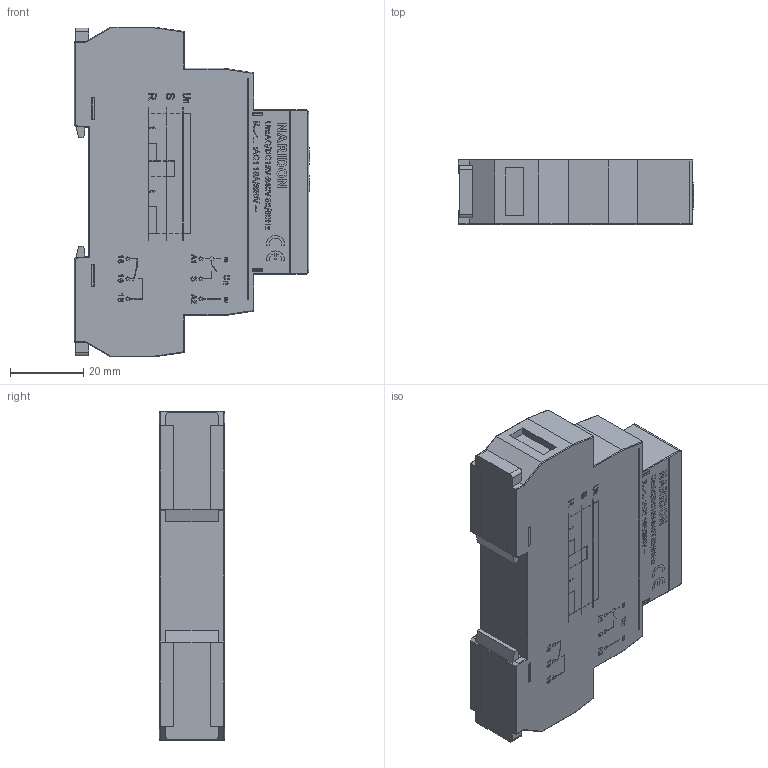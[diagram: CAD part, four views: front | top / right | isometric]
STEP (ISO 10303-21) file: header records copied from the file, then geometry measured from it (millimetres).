
FILE_DESCRIPTION (( 'STEP AP214' ), '1' );
FILE_NAME ('NARIDON.STEP', '2026-03-23T09:03:08', ( '' ), ( '' ), 'SwSTEP 2.0', 'SolidWorks 2025', '' );
FILE_SCHEMA (( 'AUTOMOTIVE_DESIGN' ));
Length unit declared in the file: millimetre
Products named in the file (1): NARIDON
Bounding box: 64.27 x 17.8 x 90 mm (x, y, z)
Volume: 79086.7 mm3; surface area: 15313.6 mm2
Topology: 1 solids, 1 shells, 654 faces, 4614 edges, 4258 vertices
Faces by surface type: plane 520, cylinder 98, cone 26, bspline 10
Entity records: 52605 total; most frequent: CARTESIAN_POINT 10043, ORIENTED_EDGE 9212, DIRECTION 5974, EDGE_CURVE 4606, LINE 4312, VECTOR 4312, VERTEX_POINT 4258, EDGE_LOOP 958
